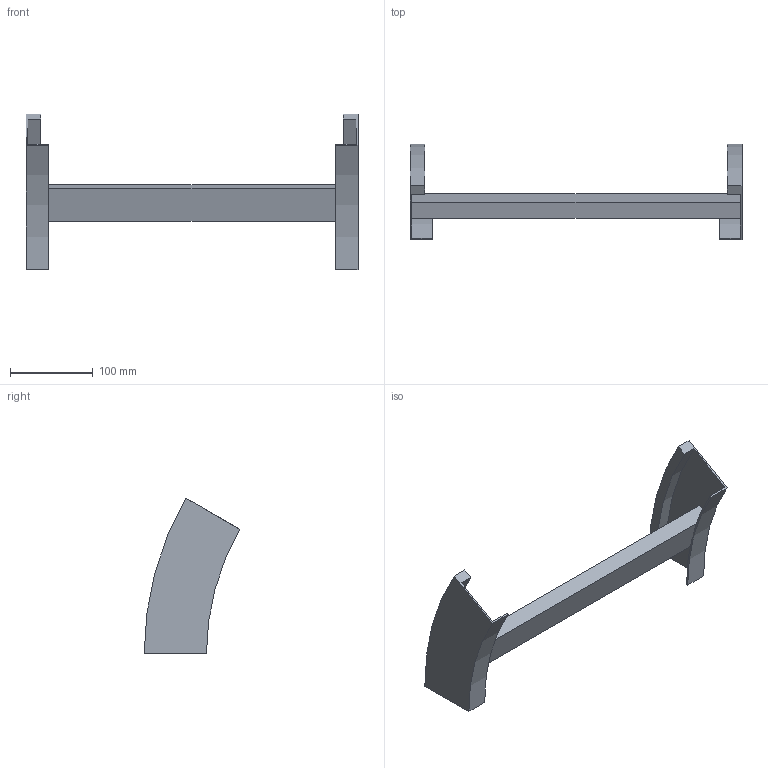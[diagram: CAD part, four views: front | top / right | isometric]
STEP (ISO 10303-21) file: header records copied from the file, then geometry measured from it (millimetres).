
FILE_DESCRIPTION (( 'STEP AP214' ), '1' );
FILE_NAME ('B2_35B3C400.step', '2025-02-21T14:50:27', ( '' ), ( '' ), 'SwSTEP 2.0', 'SolidWorks 2023', '' );
FILE_SCHEMA (( 'AUTOMOTIVE_DESIGN' ));
Length unit declared in the file: millimetre
Products named in the file (3): TRAVERSINO_400; B2_35B3C400; B2_LONGH.DISCESA_30°_H75_R300
Assembly tree (3 placements, depth 2):
  B2_35B3C400
    B2_LONGH.DISCESA_30°_H75_R300  x2
    TRAVERSINO_400
Bounding box: 400 x 115.19 x 187.5 mm (x, y, z)
Volume: 463726.6 mm3; surface area: 133657.7 mm2
Topology: 3 solids, 3 shells, 26 faces, 60 edges, 40 vertices
Faces by surface type: plane 18, cylinder 8
Entity records: 544 total; most frequent: DIRECTION 88, CARTESIAN_POINT 82, ORIENTED_EDGE 72, EDGE_CURVE 36, AXIS2_PLACEMENT_3D 30, LINE 28, VECTOR 28, VERTEX_POINT 24
